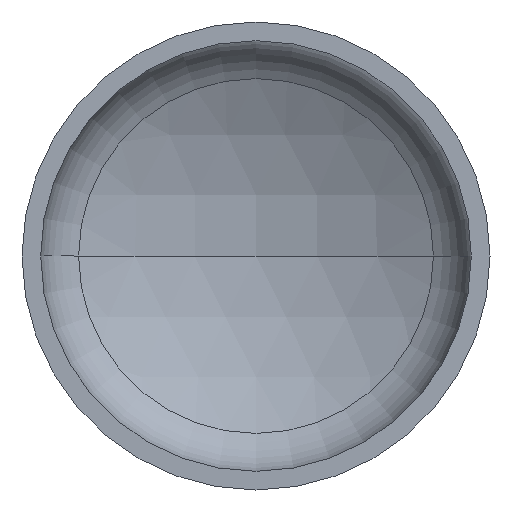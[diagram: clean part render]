
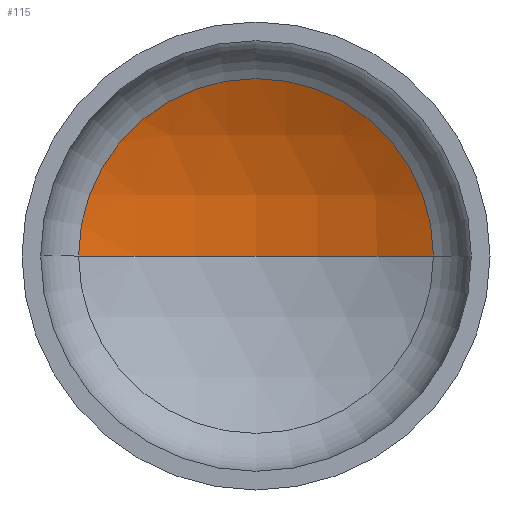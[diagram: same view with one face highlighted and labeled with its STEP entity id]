
A CAD part, front view. The second image highlights one B-rep face of the part: STEP entity #115.
In plain terms, the highlighted spherical face has radius 2080 mm.
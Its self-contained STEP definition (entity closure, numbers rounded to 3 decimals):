
#1 = AXIS2_PLACEMENT_3D ( 'NONE', #392, #247, #407 ) ;
#5 = AXIS2_PLACEMENT_3D ( 'NONE', #74, #291, #113 ) ;
#19 = AXIS2_PLACEMENT_3D ( 'NONE', #169, #123, #170 ) ;
#39 = AXIS2_PLACEMENT_3D ( 'NONE', #95, #84, #49 ) ;
#48 = VERTEX_POINT ( 'NONE', #402 ) ;
#49 = DIRECTION ( 'NONE',  ( -1., 0., 0. ) ) ;
#72 = VERTEX_POINT ( 'NONE', #204 ) ;
#74 = CARTESIAN_POINT ( 'NONE',  ( 0., -1404.454, 0. ) ) ;
#84 = DIRECTION ( 'NONE',  ( 0., 0., -1. ) ) ;
#88 = CARTESIAN_POINT ( 'NONE',  ( 0., 675.546, 0. ) ) ;
#95 = CARTESIAN_POINT ( 'NONE',  ( 0., -1404.454, 0. ) ) ;
#113 = DIRECTION ( 'NONE',  ( 1., 0., 0. ) ) ;
#115 = ADVANCED_FACE ( 'NONE', ( #411 ), #138, .F. ) ;
#123 = DIRECTION ( 'NONE',  ( 0., -1., 0. ) ) ;
#138 = SPHERICAL_SURFACE ( 'NONE', #39, 2080. ) ;
#149 = VERTEX_POINT ( 'NONE', #88 ) ;
#169 = CARTESIAN_POINT ( 'NONE',  ( 0., 427.251, 0. ) ) ;
#170 = DIRECTION ( 'NONE',  ( 1., 0., 0. ) ) ;
#203 = ORIENTED_EDGE ( 'NONE', *, *, #336, .T. ) ;
#204 = CARTESIAN_POINT ( 'NONE',  ( -985.524, 427.251, 0. ) ) ;
#207 = EDGE_LOOP ( 'NONE', ( #249, #254, #203 ) ) ;
#247 = DIRECTION ( 'NONE',  ( 0., 0., -1. ) ) ;
#249 = ORIENTED_EDGE ( 'NONE', *, *, #367, .F. ) ;
#254 = ORIENTED_EDGE ( 'NONE', *, *, #382, .T. ) ;
#291 = DIRECTION ( 'NONE',  ( 0., 0., 1. ) ) ;
#300 = CIRCLE ( 'NONE', #1, 2080. ) ;
#311 = CIRCLE ( 'NONE', #5, 2080. ) ;
#320 = CIRCLE ( 'NONE', #19, 985.524 ) ;
#336 = EDGE_CURVE ( 'NONE', #48, #72, #320, .T. ) ;
#367 = EDGE_CURVE ( 'NONE', #149, #72, #311, .T. ) ;
#382 = EDGE_CURVE ( 'NONE', #149, #48, #300, .T. ) ;
#392 = CARTESIAN_POINT ( 'NONE',  ( 0., -1404.454, 0. ) ) ;
#402 = CARTESIAN_POINT ( 'NONE',  ( 985.524, 427.251, 0. ) ) ;
#407 = DIRECTION ( 'NONE',  ( -1., 0., 0. ) ) ;
#411 = FACE_OUTER_BOUND ( 'NONE', #207, .T. ) ;
